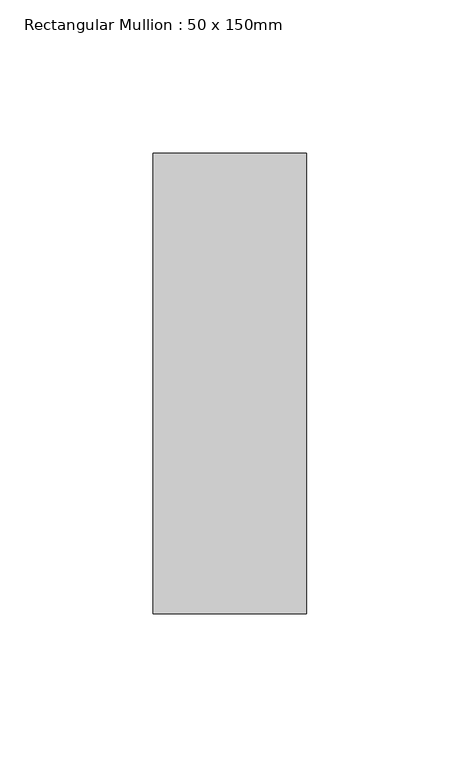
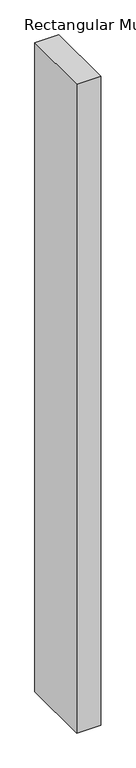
"""IFC4 building model written with IfcOpenShell, lengths in millimetres: member geometry, Rectangular Mullion : 50 x 150mm."""

from ifc_helpers import new_model, si_unit, frame, origin, place, context, project, spatial, polyline, outline, extrude, source, transform, mapped, element, save


def rectangular_mullion_50_x_150mm_379ba6c0(model_context):
    return source(origin(), model_context, "Body", "SweptSolid", [
        extrude(outline(polyline([(0.0, 75.0), (0.0, -75.0), (-50.0, -75.0), (-50.0, 75.0), (0.0, 75.0)])), frame((0.0, 0.0, -1425.0000001), z_axis=(0.0, 0.0, 1.0), x_axis=(1.0, 0.0, 0.0)), (0.0, 0.0, 1.0), 1425.0000001),
    ])


if __name__ == "__main__":
    model = new_model("IFC4")
    model_context = context("Model", 3, world=origin())
    ifc_project = project(units=[si_unit("LENGTHUNIT", "METRE", prefix="MILLI")], contexts=[model_context])
    site = spatial("IfcSite", under=ifc_project)
    building = spatial("IfcBuilding", under=site)
    placement = place(None, origin())
    rectangular_mullion_50_x_150mm_shape = rectangular_mullion_50_x_150mm_379ba6c0(model_context)
    element("IfcMember", 1, ObjectType="Rectangular Mullion : 50 x 150mm", at=placement, inside=building, context=model_context, shape_type="MappedRepresentation", body=[
        mapped(rectangular_mullion_50_x_150mm_shape, transform((0.0, 0.0, 0.0), x_axis=(1.0, 0.0, 0.0), y_axis=(0.0, 1.0, 0.0), z_axis=(0.0, 0.0, 1.0))),
    ])
    save(model, "model.ifc")
